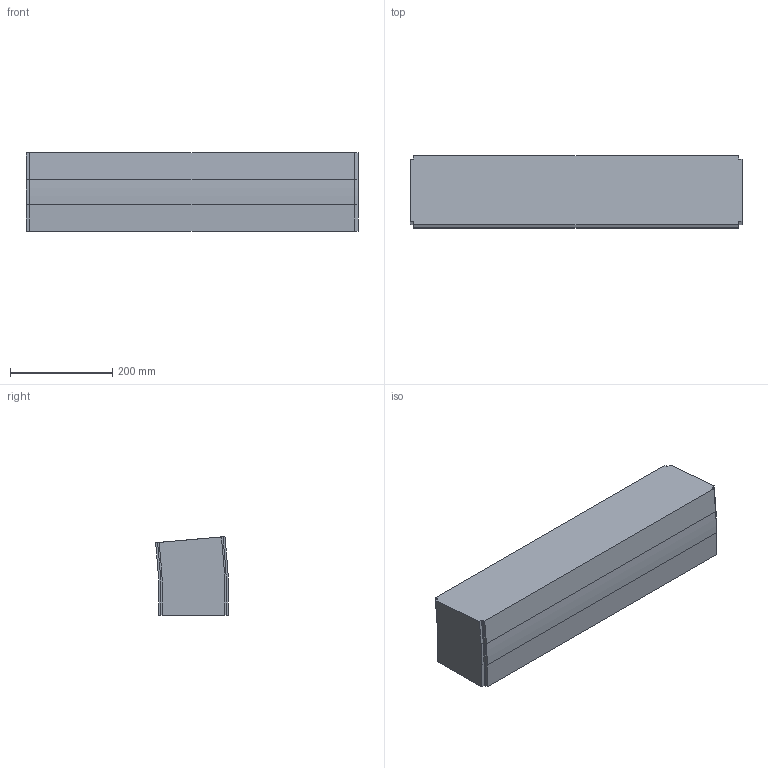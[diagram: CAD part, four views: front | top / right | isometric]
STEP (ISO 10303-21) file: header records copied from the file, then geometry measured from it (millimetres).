
FILE_DESCRIPTION (( 'STEP AP214' ), '1' );
FILE_NAME ('FS-MTC2-150-INOX verticaalbocht.650 5°.STEP', '2017-02-08T12:42:04', ( '' ), ( '' ), 'SwSTEP 2.0', 'SolidWorks 2016', '' );
FILE_SCHEMA (( 'AUTOMOTIVE_DESIGN' ));
Length unit declared in the file: millimetre
Products named in the file (1): FS-MTC2-150-INOX verticaalbocht.650 5°
Bounding box: 650.5 x 142.72 x 154.33 mm (x, y, z)
Volume: 13168495.6 mm3; surface area: 411143.2 mm2
Topology: 1 solids, 1 shells, 42 faces, 120 edges, 80 vertices
Faces by surface type: plane 32, cylinder 10
Entity records: 1398 total; most frequent: CARTESIAN_POINT 243, ORIENTED_EDGE 240, DIRECTION 226, EDGE_CURVE 120, LINE 100, VECTOR 100, VERTEX_POINT 80, AXIS2_PLACEMENT_3D 63
